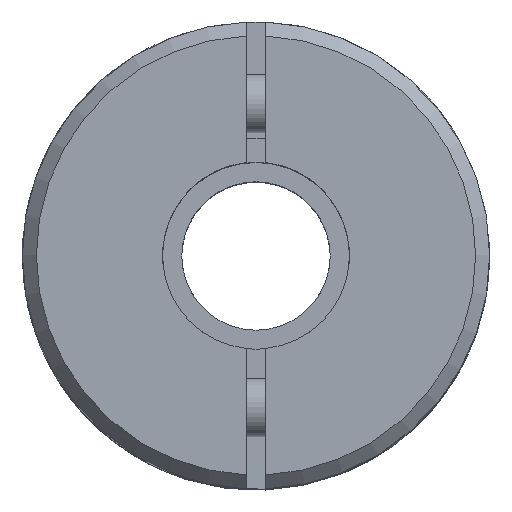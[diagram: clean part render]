
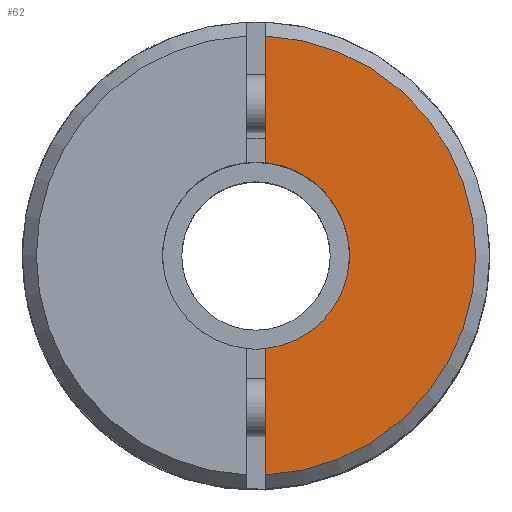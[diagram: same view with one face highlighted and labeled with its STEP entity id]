
A CAD part, top view. The second image highlights one B-rep face of the part: STEP entity #62.
In plain terms, the highlighted planar face has unit normal (0, 0, 1).
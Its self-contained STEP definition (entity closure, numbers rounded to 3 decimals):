
#60 = DIRECTION ( 'NONE',  ( 0., 1., 0. ) ) ;
#62 = ADVANCED_FACE ( 'NONE', ( #1132 ), #2199, .F. ) ;
#112 = VERTEX_POINT ( 'NONE', #4154 ) ;
#168 = VERTEX_POINT ( 'NONE', #3444 ) ;
#464 = CARTESIAN_POINT ( 'NONE',  ( 0., 1.5, 13. ) ) ;
#573 = EDGE_LOOP ( 'NONE', ( #4122, #3649, #3993, #3374 ) ) ;
#691 = DIRECTION ( 'NONE',  ( 0., 0., 1. ) ) ;
#953 = LINE ( 'NONE', #2344, #3971 ) ;
#1132 = FACE_OUTER_BOUND ( 'NONE', #573, .T. ) ;
#1209 = CARTESIAN_POINT ( 'NONE',  ( 0.4, 3.98, 13. ) ) ;
#1473 = DIRECTION ( 'NONE',  ( 0., -1., 0. ) ) ;
#1739 = CARTESIAN_POINT ( 'NONE',  ( 0., 0., 13. ) ) ;
#1742 = EDGE_CURVE ( 'NONE', #168, #3336, #953, .T. ) ;
#1969 = AXIS2_PLACEMENT_3D ( 'NONE', #2394, #3370, #3802 ) ;
#2007 = DIRECTION ( 'NONE',  ( 0., -1., 0. ) ) ;
#2070 = VERTEX_POINT ( 'NONE', #2823 ) ;
#2199 = PLANE ( 'NONE',  #3406 ) ;
#2218 = DIRECTION ( 'NONE',  ( 0., 0., -1. ) ) ;
#2229 = AXIS2_PLACEMENT_3D ( 'NONE', #1739, #691, #2855 ) ;
#2309 = CIRCLE ( 'NONE', #2229, 4. ) ;
#2344 = CARTESIAN_POINT ( 'NONE',  ( 0.4, 15., 13. ) ) ;
#2394 = CARTESIAN_POINT ( 'NONE',  ( 0., 0., 13. ) ) ;
#2467 = EDGE_CURVE ( 'NONE', #2070, #168, #3917, .T. ) ;
#2697 = EDGE_CURVE ( 'NONE', #112, #2070, #3570, .T. ) ;
#2823 = CARTESIAN_POINT ( 'NONE',  ( 0.4, -9.391, 13. ) ) ;
#2855 = DIRECTION ( 'NONE',  ( 1., 0., 0. ) ) ;
#3248 = CARTESIAN_POINT ( 'NONE',  ( 0.4, 15., 13. ) ) ;
#3336 = VERTEX_POINT ( 'NONE', #1209 ) ;
#3370 = DIRECTION ( 'NONE',  ( 0., 0., 1. ) ) ;
#3374 = ORIENTED_EDGE ( 'NONE', *, *, #2467, .T. ) ;
#3406 = AXIS2_PLACEMENT_3D ( 'NONE', #464, #2218, #60 ) ;
#3444 = CARTESIAN_POINT ( 'NONE',  ( 0.4, 9.391, 13. ) ) ;
#3570 = LINE ( 'NONE', #3248, #3815 ) ;
#3649 = ORIENTED_EDGE ( 'NONE', *, *, #4476, .F. ) ;
#3802 = DIRECTION ( 'NONE',  ( 0., 1., 0. ) ) ;
#3815 = VECTOR ( 'NONE', #1473, 1000. ) ;
#3917 = CIRCLE ( 'NONE', #1969, 9.4 ) ;
#3971 = VECTOR ( 'NONE', #2007, 1000. ) ;
#3993 = ORIENTED_EDGE ( 'NONE', *, *, #2697, .T. ) ;
#4122 = ORIENTED_EDGE ( 'NONE', *, *, #1742, .T. ) ;
#4154 = CARTESIAN_POINT ( 'NONE',  ( 0.4, -3.98, 13. ) ) ;
#4476 = EDGE_CURVE ( 'NONE', #112, #3336, #2309, .T. ) ;
